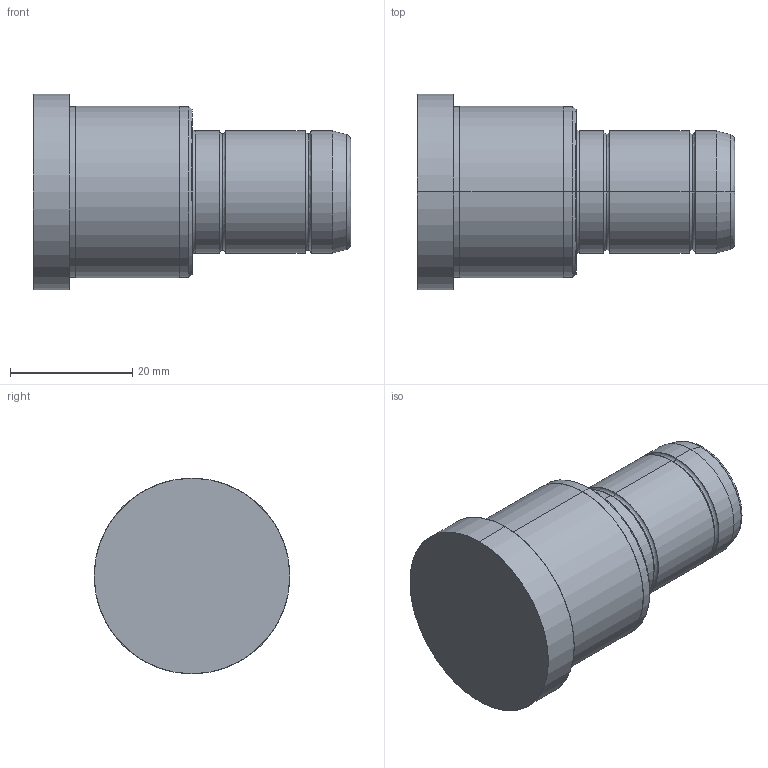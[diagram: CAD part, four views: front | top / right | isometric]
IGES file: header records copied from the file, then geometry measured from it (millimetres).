
Start section: SolidWorks IGES file using analytic representation for surfaces
Global section: file name: C:\Documents and Settings\kalite-mail\Desktop\IGS\D02\20\D02 - 20x26x26.IGS; native system: SolidWorks 2008; preprocessor: SolidWorks 2008; author: kalite-mail; date: 080616.161152; units: millimetre
Bounding box: 52 x 32 x 32 mm (x, y, z)
Surface area: 5570.4 mm2 (no closed solid volume)
Topology: 0 solids, 0 shells, 36 faces, 664 edges, 664 vertices
Faces by surface type: bspline 18, revolution 18
